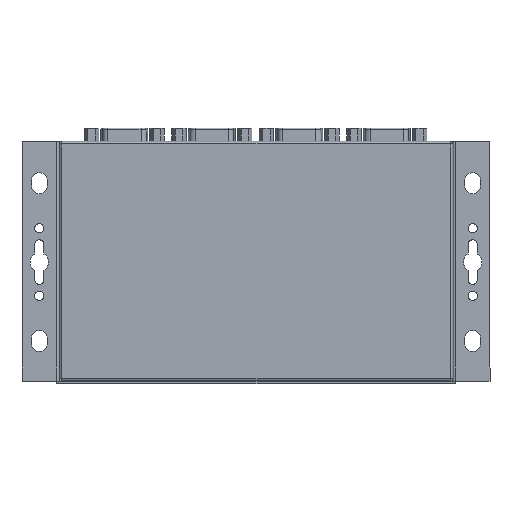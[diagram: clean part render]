
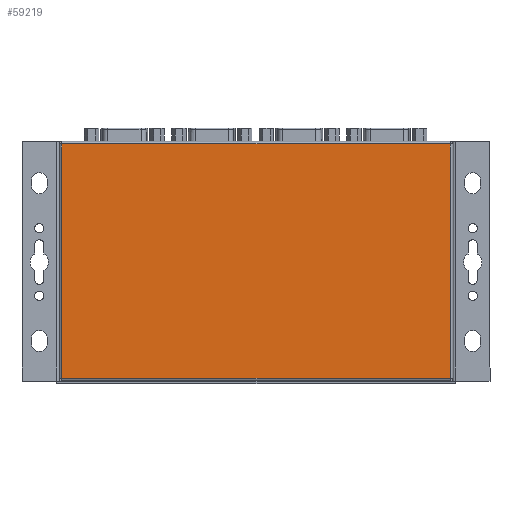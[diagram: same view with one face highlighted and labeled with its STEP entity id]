
A CAD part, front view. The second image highlights one B-rep face of the part: STEP entity #59219.
In plain terms, the highlighted planar face has unit normal (0, -1, 0).
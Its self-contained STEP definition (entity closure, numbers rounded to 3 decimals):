
#2919=PLANE('',#63923);
#7895=FACE_OUTER_BOUND('',#11505,.T.);
#11505=EDGE_LOOP('',(#54342,#54343,#54344,#54345));
#17791=LINE('',#110255,#24141);
#17804=LINE('',#110290,#24154);
#17808=LINE('',#110304,#24158);
#17809=LINE('',#110305,#24159);
#24141=VECTOR('',#79010,10.);
#24154=VECTOR('',#79053,10.);
#24158=VECTOR('',#79073,10.);
#24159=VECTOR('',#79074,10.);
#29887=VERTEX_POINT('',#110252);
#29888=VERTEX_POINT('',#110254);
#29895=VERTEX_POINT('',#110289);
#29897=VERTEX_POINT('',#110303);
#38137=EDGE_CURVE('',#29888,#29887,#17791,.T.);
#38155=EDGE_CURVE('',#29895,#29888,#17804,.T.);
#38163=EDGE_CURVE('',#29887,#29897,#17808,.T.);
#38164=EDGE_CURVE('',#29897,#29895,#17809,.T.);
#54342=ORIENTED_EDGE('',*,*,#38137,.T.);
#54343=ORIENTED_EDGE('',*,*,#38163,.T.);
#54344=ORIENTED_EDGE('',*,*,#38164,.T.);
#54345=ORIENTED_EDGE('',*,*,#38155,.T.);
#59219=ADVANCED_FACE('',(#7895),#2919,.T.);
#63923=AXIS2_PLACEMENT_3D('',#110302,#79071,#79072);
#79010=DIRECTION('',(1.,0.,0.));
#79053=DIRECTION('',(0.,0.,-1.));
#79071=DIRECTION('center_axis',(0.,-1.,0.));
#79072=DIRECTION('ref_axis',(1.,0.,0.));
#79073=DIRECTION('',(0.,0.,1.));
#79074=DIRECTION('',(-1.,0.,0.));
#110252=CARTESIAN_POINT('',(73.99,-5.,-88.345));
#110254=CARTESIAN_POINT('',(-73.99,-5.,-88.345));
#110255=CARTESIAN_POINT('',(4.495,-5.,-88.345));
#110289=CARTESIAN_POINT('',(-73.99,-5.,1.015));
#110290=CARTESIAN_POINT('',(-73.99,-5.,-57.521));
#110302=CARTESIAN_POINT('Origin',(-65.,-5.,-25.686));
#110303=CARTESIAN_POINT('',(73.99,-5.,1.015));
#110304=CARTESIAN_POINT('',(73.99,-5.,-12.336));
#110305=CARTESIAN_POINT('',(-70.,-5.,1.015));
